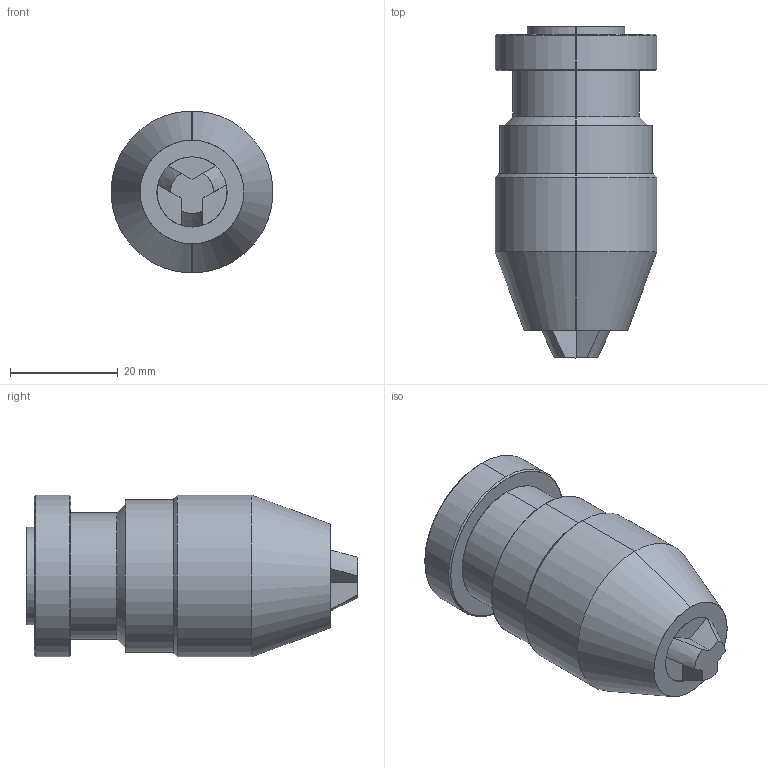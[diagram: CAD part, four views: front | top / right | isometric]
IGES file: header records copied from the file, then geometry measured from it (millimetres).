
Start section: SolidWorks IGES file using analytic representation for surfaces
Global section: file name: R:\Inventor\Kundmodeller Solidworks\Chuckar\041J004005 Precision chuck Albrecht, B10, 0-5 mm.IGS; native system: SolidWorks 2008; preprocessor: SolidWorks 2008; author: Johan; date: 090903.160130; units: millimetre
Bounding box: 30 x 61.5 x 30 mm (x, y, z)
Surface area: 6948.5 mm2 (no closed solid volume)
Topology: 0 solids, 0 shells, 46 faces, 792 edges, 792 vertices
Faces by surface type: revolution 29, bspline 17
